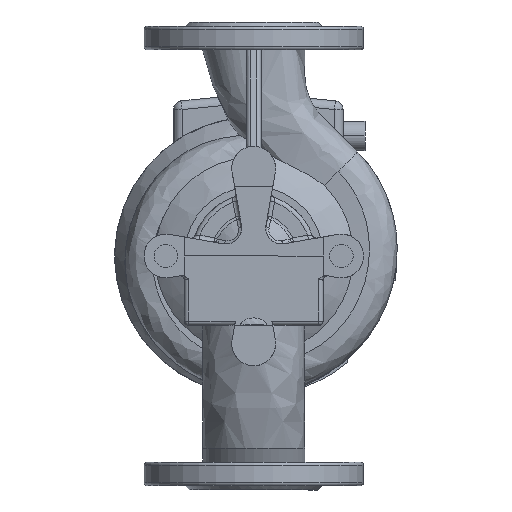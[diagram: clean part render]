
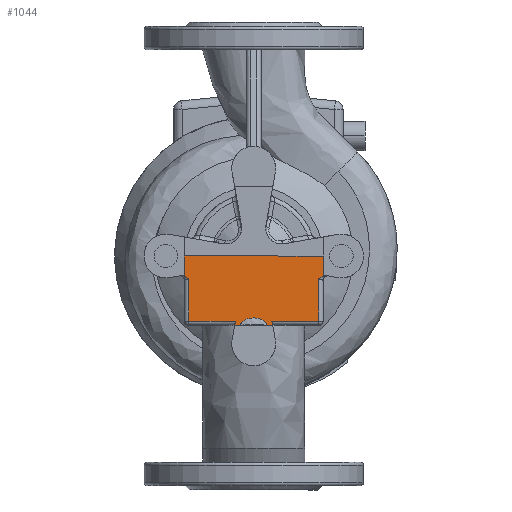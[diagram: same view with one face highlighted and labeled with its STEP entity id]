
A CAD part, front view. The second image highlights one B-rep face of the part: STEP entity #1044.
In plain terms, the highlighted planar face has unit normal (0, -1, 0).
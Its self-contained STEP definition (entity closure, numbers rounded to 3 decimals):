
#1044=ADVANCED_FACE('',(#2482),#1976,.F.);
#1976=PLANE('',#17231);
#2482=FACE_OUTER_BOUND('',#3427,.T.);
#3427=EDGE_LOOP('',(#6464,#6465,#6466,#6467,#6468,#6469,#6470,#6471,#6472,
#6473,#6474,#6475,#6476,#6477,#6478,#6479));
#5503=B_SPLINE_CURVE_WITH_KNOTS('',3,(#27636,#27637,#27638,#27639),
 .UNSPECIFIED.,.F.,.F.,(4,4),(0.,1.),.UNSPECIFIED.);
#5504=B_SPLINE_CURVE_WITH_KNOTS('',3,(#27641,#27642,#27643,#27644,#27645,
#27646,#27647,#27648,#27649,#27650,#27651,#27652,#27653,#27654),
 .UNSPECIFIED.,.F.,.F.,(4,2,2,2,2,2,4),(0.,0.125,0.25,0.5,0.75,0.875,1.),
 .UNSPECIFIED.);
#5505=B_SPLINE_CURVE_WITH_KNOTS('',3,(#27656,#27657,#27658,#27659),
 .UNSPECIFIED.,.F.,.F.,(4,4),(0.,1.),.UNSPECIFIED.);
#5506=B_SPLINE_CURVE_WITH_KNOTS('',3,(#27664,#27665,#27666,#27667,#27668,
#27669,#27670,#27671,#27672,#27673,#27674,#27675,#27676),.UNSPECIFIED.,
 .F.,.F.,(4,1,2,2,2,2,4),(0.,0.125,0.187,0.25,0.5,
0.75,1.),.UNSPECIFIED.);
#5507=B_SPLINE_CURVE_WITH_KNOTS('',3,(#27684,#27685,#27686,#27687,#27688,
#27689,#27690,#27691,#27692,#27693,#27694,#27695,#27696),.UNSPECIFIED.,
 .F.,.F.,(4,2,2,1,2,2,4),(0.,0.25,0.5,0.625,
0.687,0.75,1.),.UNSPECIFIED.);
#6464=ORIENTED_EDGE('',*,*,#12834,.T.);
#6465=ORIENTED_EDGE('',*,*,#12820,.T.);
#6466=ORIENTED_EDGE('',*,*,#12813,.T.);
#6467=ORIENTED_EDGE('',*,*,#12835,.T.);
#6468=ORIENTED_EDGE('',*,*,#12836,.T.);
#6469=ORIENTED_EDGE('',*,*,#12837,.T.);
#6470=ORIENTED_EDGE('',*,*,#12817,.T.);
#6471=ORIENTED_EDGE('',*,*,#12825,.T.);
#6472=ORIENTED_EDGE('',*,*,#12838,.T.);
#6473=ORIENTED_EDGE('',*,*,#12839,.T.);
#6474=ORIENTED_EDGE('',*,*,#12840,.T.);
#6475=ORIENTED_EDGE('',*,*,#12841,.T.);
#6476=ORIENTED_EDGE('',*,*,#12842,.T.);
#6477=ORIENTED_EDGE('',*,*,#12843,.T.);
#6478=ORIENTED_EDGE('',*,*,#12844,.T.);
#6479=ORIENTED_EDGE('',*,*,#12845,.T.);
#11126=VERTEX_POINT('',#27561);
#11127=VERTEX_POINT('',#27562);
#11128=VERTEX_POINT('',#27564);
#11131=VERTEX_POINT('',#27570);
#11133=VERTEX_POINT('',#27577);
#11135=VERTEX_POINT('',#27591);
#11139=VERTEX_POINT('',#27635);
#11140=VERTEX_POINT('',#27640);
#11141=VERTEX_POINT('',#27655);
#11142=VERTEX_POINT('',#27661);
#11143=VERTEX_POINT('',#27663);
#11144=VERTEX_POINT('',#27677);
#11145=VERTEX_POINT('',#27679);
#11146=VERTEX_POINT('',#27681);
#11147=VERTEX_POINT('',#27683);
#11148=VERTEX_POINT('',#27697);
#12813=EDGE_CURVE('',#11128,#11126,#14997,.T.);
#12817=EDGE_CURVE('',#11127,#11131,#15001,.T.);
#12820=EDGE_CURVE('',#11133,#11128,#15004,.T.);
#12825=EDGE_CURVE('',#11131,#11135,#15006,.T.);
#12834=EDGE_CURVE('',#11139,#11133,#15012,.T.);
#12835=EDGE_CURVE('',#11126,#11140,#5503,.T.);
#12836=EDGE_CURVE('',#11140,#11141,#5504,.T.);
#12837=EDGE_CURVE('',#11141,#11127,#5505,.T.);
#12838=EDGE_CURVE('',#11135,#11142,#15013,.T.);
#12839=EDGE_CURVE('',#11142,#11143,#15014,.T.);
#12840=EDGE_CURVE('',#11143,#11144,#5506,.T.);
#12841=EDGE_CURVE('',#11144,#11145,#15015,.T.);
#12842=EDGE_CURVE('',#11145,#11146,#15016,.T.);
#12843=EDGE_CURVE('',#11146,#11147,#15017,.T.);
#12844=EDGE_CURVE('',#11147,#11148,#5507,.T.);
#12845=EDGE_CURVE('',#11148,#11139,#15018,.T.);
#14997=LINE('',#27563,#16052);
#15001=LINE('',#27571,#16056);
#15004=LINE('',#27576,#16059);
#15006=LINE('',#27592,#16061);
#15012=LINE('',#27634,#16067);
#15013=LINE('',#27660,#16068);
#15014=LINE('',#27662,#16069);
#15015=LINE('',#27678,#16070);
#15016=LINE('',#27680,#16071);
#15017=LINE('',#27682,#16072);
#15018=LINE('',#27698,#16073);
#16052=VECTOR('',#19495,1.);
#16056=VECTOR('',#19499,1.);
#16059=VECTOR('',#19504,1.);
#16061=VECTOR('',#19512,1.);
#16067=VECTOR('',#19524,1.);
#16068=VECTOR('',#19525,1.);
#16069=VECTOR('',#19526,1.);
#16070=VECTOR('',#19527,1.);
#16071=VECTOR('',#19528,1.);
#16072=VECTOR('',#19529,1.);
#16073=VECTOR('',#19530,1.);
#17231=AXIS2_PLACEMENT_3D('',#27699,#19531,#19532);
#19495=DIRECTION('',(1.,0.,0.));
#19499=DIRECTION('',(1.,0.,0.));
#19504=DIRECTION('',(-0.174,0.,-0.985));
#19512=DIRECTION('',(-0.174,0.,0.985));
#19524=DIRECTION('',(1.,0.,0.));
#19525=DIRECTION('',(1.,0.,0.));
#19526=DIRECTION('',(0.,0.,1.));
#19527=DIRECTION('',(0.,0.,1.));
#19528=DIRECTION('',(-1.,0.,0.));
#19529=DIRECTION('',(0.,0.,-1.));
#19530=DIRECTION('',(0.,0.,-1.));
#19531=DIRECTION('',(0.,1.,0.));
#19532=DIRECTION('',(0.,0.,1.));
#27561=CARTESIAN_POINT('',(-12.171,-58.,-47.5));
#27562=CARTESIAN_POINT('',(5.955,-58.,-47.5));
#27563=CARTESIAN_POINT('',(44.392,-58.,-47.5));
#27564=CARTESIAN_POINT('',(-16.136,-58.,-47.5));
#27570=CARTESIAN_POINT('',(9.919,-58.,-47.5));
#27571=CARTESIAN_POINT('',(44.392,-58.,-47.5));
#27576=CARTESIAN_POINT('',(-16.136,-58.,-47.5));
#27577=CARTESIAN_POINT('',(-15.607,-58.,-44.5));
#27591=CARTESIAN_POINT('',(9.39,-58.,-44.5));
#27592=CARTESIAN_POINT('',(9.919,-58.,-47.5));
#27634=CARTESIAN_POINT('',(-16.136,-58.,-44.5));
#27635=CARTESIAN_POINT('',(-47.608,-58.,-44.5));
#27636=CARTESIAN_POINT('',(-12.171,-58.,-47.5));
#27637=CARTESIAN_POINT('',(-12.171,-58.,-47.443));
#27638=CARTESIAN_POINT('',(-12.171,-58.,-47.386));
#27639=CARTESIAN_POINT('',(-12.171,-58.,-47.329));
#27640=CARTESIAN_POINT('',(-12.171,-58.,-47.329));
#27641=CARTESIAN_POINT('',(-12.171,-58.,-47.329));
#27642=CARTESIAN_POINT('',(-12.168,-58.,-46.375));
#27643=CARTESIAN_POINT('',(-11.603,-58.,-45.523));
#27644=CARTESIAN_POINT('',(-10.242,-58.,-44.241));
#27645=CARTESIAN_POINT('',(-9.415,-58.,-43.762));
#27646=CARTESIAN_POINT('',(-6.849,-58.,-42.665));
#27647=CARTESIAN_POINT('',(-4.974,-58.,-42.355));
#27648=CARTESIAN_POINT('',(-1.249,-58.,-42.354));
#27649=CARTESIAN_POINT('',(0.604,-58.,-42.656));
#27650=CARTESIAN_POINT('',(3.191,-58.,-43.757));
#27651=CARTESIAN_POINT('',(4.014,-58.,-44.231));
#27652=CARTESIAN_POINT('',(5.39,-58.,-45.524));
#27653=CARTESIAN_POINT('',(5.951,-58.,-46.376));
#27654=CARTESIAN_POINT('',(5.955,-58.,-47.329));
#27655=CARTESIAN_POINT('',(5.955,-58.,-47.329));
#27656=CARTESIAN_POINT('',(5.955,-58.,-47.329));
#27657=CARTESIAN_POINT('',(5.955,-58.,-47.386));
#27658=CARTESIAN_POINT('',(5.955,-58.,-47.443));
#27659=CARTESIAN_POINT('',(5.955,-58.,-47.5));
#27660=CARTESIAN_POINT('',(44.392,-58.,-44.5));
#27661=CARTESIAN_POINT('',(41.392,-58.,-44.5));
#27662=CARTESIAN_POINT('',(41.392,-58.,-13.027));
#27663=CARTESIAN_POINT('',(41.392,-58.,-15.545));
#27664=CARTESIAN_POINT('',(41.392,-58.,-15.545));
#27665=CARTESIAN_POINT('',(41.551,-58.,-15.437));
#27666=CARTESIAN_POINT('',(41.76,-58.,-15.296));
#27667=CARTESIAN_POINT('',(41.925,-58.,-15.185));
#27668=CARTESIAN_POINT('',(42.025,-58.,-15.119));
#27669=CARTESIAN_POINT('',(42.043,-58.,-15.107));
#27670=CARTESIAN_POINT('',(42.378,-58.,-14.886));
#27671=CARTESIAN_POINT('',(42.577,-58.,-14.76));
#27672=CARTESIAN_POINT('',(43.107,-58.,-14.443));
#27673=CARTESIAN_POINT('',(43.327,-58.,-14.32));
#27674=CARTESIAN_POINT('',(43.868,-58.,-14.048));
#27675=CARTESIAN_POINT('',(44.133,-58.,-13.931));
#27676=CARTESIAN_POINT('',(44.392,-58.,-13.833));
#27677=CARTESIAN_POINT('',(44.392,-58.,-13.833));
#27678=CARTESIAN_POINT('',(44.392,-58.,0.));
#27679=CARTESIAN_POINT('',(44.392,-58.,0.));
#27680=CARTESIAN_POINT('',(44.392,-58.,0.));
#27681=CARTESIAN_POINT('',(-50.608,-58.,0.));
#27682=CARTESIAN_POINT('',(-50.608,-58.,0.));
#27683=CARTESIAN_POINT('',(-50.608,-58.,-13.833));
#27684=CARTESIAN_POINT('',(-50.608,-58.,-13.833));
#27685=CARTESIAN_POINT('',(-50.35,-58.,-13.931));
#27686=CARTESIAN_POINT('',(-50.052,-58.,-14.064));
#27687=CARTESIAN_POINT('',(-49.576,-58.,-14.303));
#27688=CARTESIAN_POINT('',(-49.278,-58.,-14.47));
#27689=CARTESIAN_POINT('',(-48.949,-58.,-14.667));
#27690=CARTESIAN_POINT('',(-48.775,-58.,-14.774));
#27691=CARTESIAN_POINT('',(-48.587,-58.,-14.893));
#27692=CARTESIAN_POINT('',(-48.459,-58.,-14.976));
#27693=CARTESIAN_POINT('',(-48.367,-58.,-15.036));
#27694=CARTESIAN_POINT('',(-48.166,-58.,-15.168));
#27695=CARTESIAN_POINT('',(-47.927,-58.,-15.329));
#27696=CARTESIAN_POINT('',(-47.608,-58.,-15.545));
#27697=CARTESIAN_POINT('',(-47.608,-58.,-15.545));
#27698=CARTESIAN_POINT('',(-47.608,-58.,-47.5));
#27699=CARTESIAN_POINT('',(-3.108,-58.,0.));
